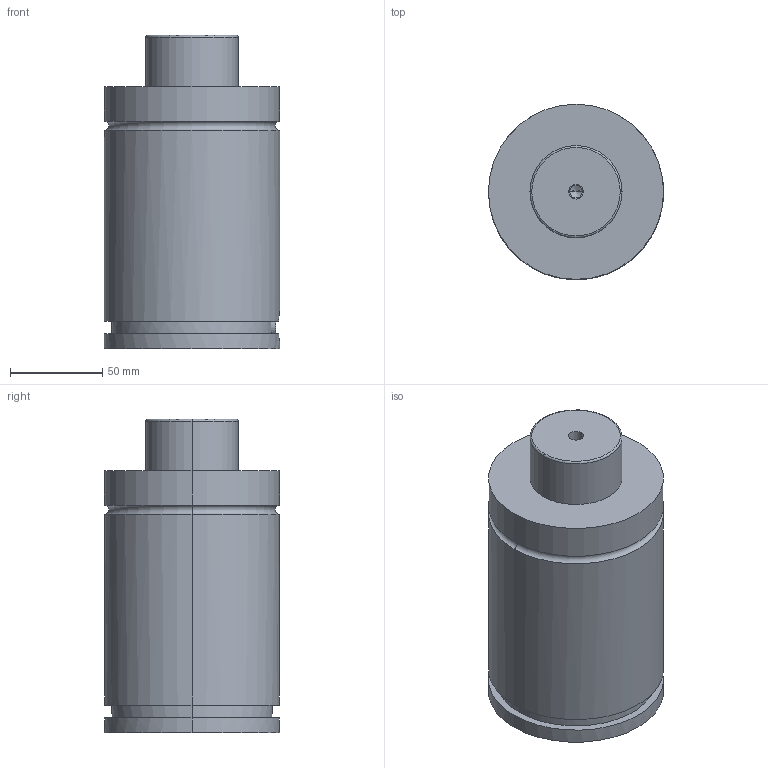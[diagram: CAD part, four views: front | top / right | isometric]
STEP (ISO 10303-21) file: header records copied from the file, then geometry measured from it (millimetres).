
FILE_DESCRIPTION(/* description */ (''),/* implementation_level */ '2;1');
FILE_NAME(/* name */ '3d_gse95-25_03849_r00.stp',/* time_stamp */ '2011-01-10T14:15:18+09:00',/* author */ ('MISUMI'),/* organization */ (''),/* preprocessor_version */ 'ST-DEVELOPER v11',/* originating_system */ 'UGS - NX 5.0',/* authorisation */ '');
FILE_SCHEMA (('CONFIG_CONTROL_DESIGN'));
Length unit declared in the file: millimetre
Products named in the file (1): 3d_gse95-25_03849_r00
Bounding box: 95 x 95 x 170 mm (x, y, z)
Volume: 1045912.4 mm3; surface area: 66245.7 mm2
Topology: 1 solids, 1 shells, 75 faces, 161 edges, 103 vertices
Faces by surface type: cylinder 34, plane 27, cone 10, torus 4
Entity records: 2145 total; most frequent: DIRECTION 393, CARTESIAN_POINT 360, ORIENTED_EDGE 318, AXIS2_PLACEMENT_3D 164, EDGE_CURVE 159, VERTEX_POINT 103, EDGE_LOOP 92, CIRCLE 88
